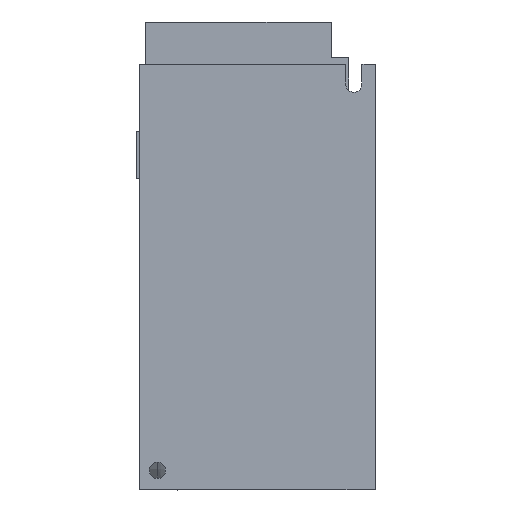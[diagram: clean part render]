
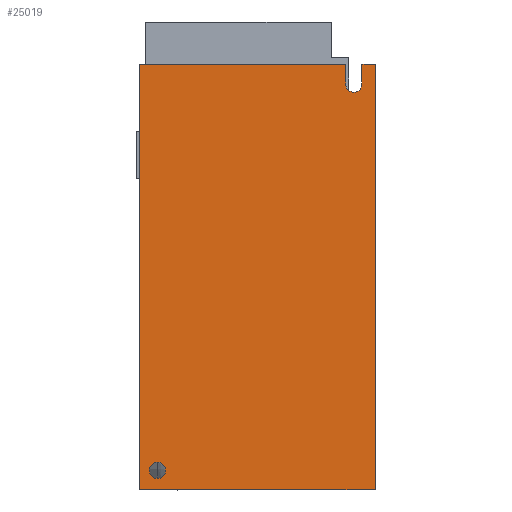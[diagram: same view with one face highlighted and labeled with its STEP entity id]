
A CAD part, front view. The second image highlights one B-rep face of the part: STEP entity #25019.
In plain terms, the highlighted planar face has unit normal (0, -1, 0).
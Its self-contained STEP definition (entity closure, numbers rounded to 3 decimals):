
#24522=CARTESIAN_POINT('',(65.5,10.,-6.));
#24523=DIRECTION('',(0.,1.,0.));
#24524=DIRECTION('',(1.,0.,0.));
#24525=AXIS2_PLACEMENT_3D('',#24522,#24523,#24524);
#24527=DIRECTION('',(0.,0.,-1.));
#24528=VECTOR('',#24527,6.);
#24529=CARTESIAN_POINT('',(68.,10.,0.));
#24530=LINE('',#24529,#24528);
#24531=DIRECTION('',(0.,0.,1.));
#24532=VECTOR('',#24531,130.);
#24533=CARTESIAN_POINT('',(72.,10.,-130.));
#24534=LINE('',#24533,#24532);
#24535=DIRECTION('',(1.,0.,0.));
#24536=VECTOR('',#24535,72.);
#24537=CARTESIAN_POINT('',(0.,10.,-130.));
#24538=LINE('',#24537,#24536);
#24539=CARTESIAN_POINT('',(5.5,10.,-124.));
#24540=DIRECTION('',(0.,1.,0.));
#24541=DIRECTION('',(-1.,0.,0.));
#24542=AXIS2_PLACEMENT_3D('',#24539,#24540,#24541);
#24544=CARTESIAN_POINT('',(5.5,10.,-124.));
#24545=DIRECTION('',(0.,1.,0.));
#24546=DIRECTION('',(1.,0.,0.));
#24547=AXIS2_PLACEMENT_3D('',#24544,#24545,#24546);
#24549=DIRECTION('',(0.,0.,-1.));
#24550=VECTOR('',#24549,6.);
#24551=CARTESIAN_POINT('',(63.,10.,0.));
#24552=LINE('',#24551,#24550);
#24553=DIRECTION('',(1.,0.,0.));
#24554=VECTOR('',#24553,63.);
#24555=CARTESIAN_POINT('',(0.,10.,0.));
#24556=LINE('',#24555,#24554);
#24589=DIRECTION('',(0.,0.,1.));
#24590=VECTOR('',#24589,130.);
#24591=CARTESIAN_POINT('',(0.,10.,-130.));
#24592=LINE('',#24591,#24590);
#24817=DIRECTION('',(1.,0.,0.));
#24818=VECTOR('',#24817,4.);
#24819=CARTESIAN_POINT('',(68.,10.,0.));
#24820=LINE('',#24819,#24818);
#24853=CARTESIAN_POINT('',(0.,10.,-130.));
#24854=CARTESIAN_POINT('',(72.,10.,-130.));
#24855=VERTEX_POINT('',#24853);
#24856=VERTEX_POINT('',#24854);
#24877=CARTESIAN_POINT('',(72.,10.,0.));
#24878=VERTEX_POINT('',#24877);
#24939=CARTESIAN_POINT('',(68.,10.,0.));
#24940=VERTEX_POINT('',#24939);
#24941=CARTESIAN_POINT('',(68.,10.,-6.));
#24942=VERTEX_POINT('',#24941);
#24943=CARTESIAN_POINT('',(63.,10.,0.));
#24944=CARTESIAN_POINT('',(63.,10.,-6.));
#24945=VERTEX_POINT('',#24943);
#24946=VERTEX_POINT('',#24944);
#24947=CARTESIAN_POINT('',(0.,10.,0.));
#24948=VERTEX_POINT('',#24947);
#24949=CARTESIAN_POINT('',(3.,10.,-124.));
#24950=CARTESIAN_POINT('',(8.,10.,-124.));
#24951=VERTEX_POINT('',#24949);
#24952=VERTEX_POINT('',#24950);
#24991=CARTESIAN_POINT('',(72.,10.,-130.));
#24992=DIRECTION('',(0.,-1.,0.));
#24993=DIRECTION('',(-1.,0.,0.));
#24994=AXIS2_PLACEMENT_3D('',#24991,#24992,#24993);
#24995=PLANE('',#24994);
#24997=ORIENTED_EDGE('',*,*,#24996,.T.);
#24999=ORIENTED_EDGE('',*,*,#24998,.F.);
#25001=ORIENTED_EDGE('',*,*,#25000,.F.);
#25003=ORIENTED_EDGE('',*,*,#25002,.T.);
#25005=ORIENTED_EDGE('',*,*,#25004,.F.);
#25006=ORIENTED_EDGE('',*,*,#24972,.F.);
#25008=ORIENTED_EDGE('',*,*,#25007,.T.);
#25010=ORIENTED_EDGE('',*,*,#25009,.T.);
#25011=EDGE_LOOP('',(#24997,#24999,#25001,#25003,#25005,#25006,#25008,#25010));
#25012=FACE_OUTER_BOUND('',#25011,.F.);
#25014=ORIENTED_EDGE('',*,*,#25013,.F.);
#25016=ORIENTED_EDGE('',*,*,#25015,.F.);
#25017=EDGE_LOOP('',(#25014,#25016));
#25018=FACE_BOUND('',#25017,.F.);
#24526=CIRCLE('',#24525,2.5);
#24543=CIRCLE('',#24542,2.5);
#24548=CIRCLE('',#24547,2.5);
#24972=EDGE_CURVE('',#24855,#24856,#24538,.T.);
#24996=EDGE_CURVE('',#24945,#24946,#24552,.T.);
#24998=EDGE_CURVE('',#24942,#24946,#24526,.T.);
#25000=EDGE_CURVE('',#24940,#24942,#24530,.T.);
#25002=EDGE_CURVE('',#24940,#24878,#24820,.T.);
#25004=EDGE_CURVE('',#24856,#24878,#24534,.T.);
#25007=EDGE_CURVE('',#24855,#24948,#24592,.T.);
#25009=EDGE_CURVE('',#24948,#24945,#24556,.T.);
#25013=EDGE_CURVE('',#24951,#24952,#24543,.T.);
#25015=EDGE_CURVE('',#24952,#24951,#24548,.T.);
#25019=ADVANCED_FACE('',(#25012,#25018),#24995,.T.);
